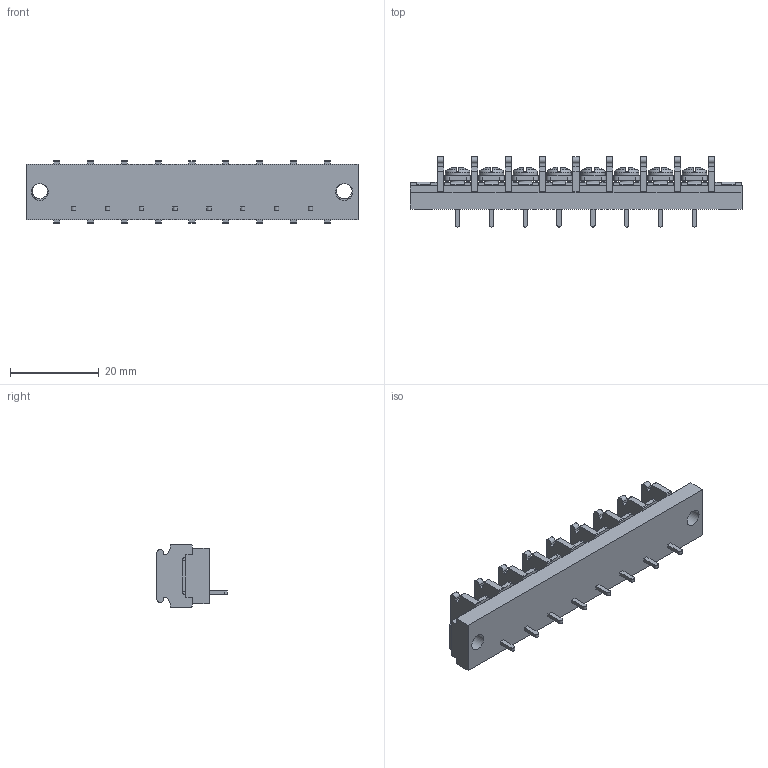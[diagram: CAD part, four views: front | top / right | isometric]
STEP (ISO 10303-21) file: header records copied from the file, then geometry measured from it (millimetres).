
FILE_DESCRIPTION(/* description */ ('Alibre Inc.'),/* implementation_level */ '2;1');
FILE_NAME(/* name */ 'export0',/* time_stamp */ '2015-10-23T19:38:05+09:00',/* author */ (''),/* organization */ (''),/* preprocessor_version */ 'ST-DEVELOPER v14',/* originating_system */ 'Alibre',/* authorisation */ '');
FILE_SCHEMA (('CONFIG_CONTROL_DESIGN'));
Length unit declared in the file: centimetre
Products named in the file (1): ID_1
Bounding box: 74.78 x 15.8 x 14 mm (x, y, z)
Volume: 6643.2 mm3; surface area: 6295.8 mm2
Topology: 1 solids, 17 shells, 1364 faces, 3716 edges, 2440 vertices
Faces by surface type: plane 1054, cylinder 142, bspline 104, cone 32, torus 16, sphere 16
Full cylindrical faces by diameter (mm): 3 x8, 3.5 x2, 3.8 x2, 5.5 x8
Entity records: 40873 total; most frequent: CARTESIAN_POINT 8909, ORIENTED_EDGE 7288, DIRECTION 5102, EDGE_CURVE 3644, VECTOR 2660, LINE 2660, VERTEX_POINT 2404, AXIS2_PLACEMENT_3D 1701
